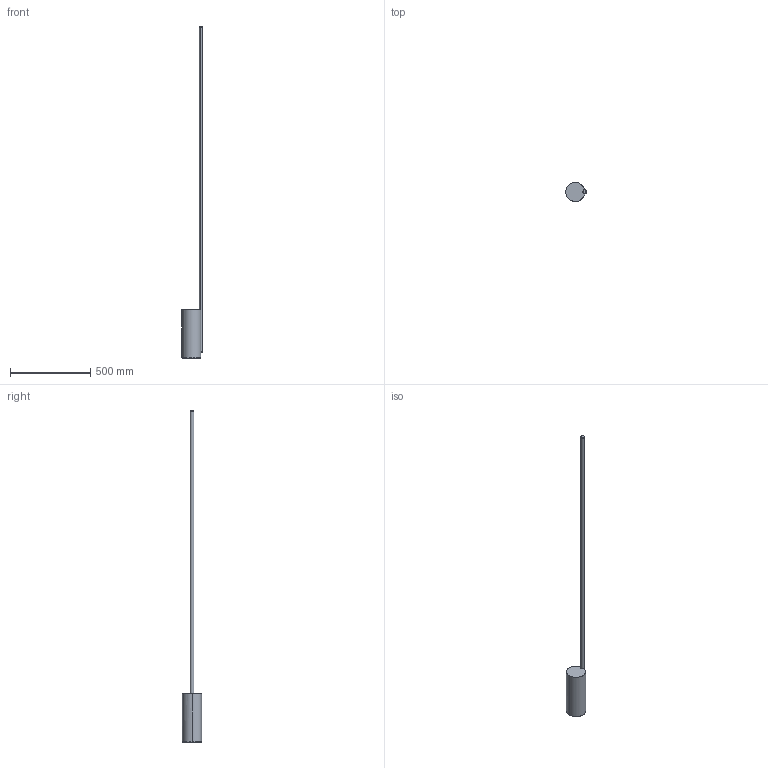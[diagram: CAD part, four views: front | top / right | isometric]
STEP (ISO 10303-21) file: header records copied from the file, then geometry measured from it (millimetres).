
FILE_DESCRIPTION(/* description */ (''),/* implementation_level */ '2;1');
FILE_NAME(/* name */ 'T108__~1',/* time_stamp */ '2024-07-02T10:50:50+02:00',/* author */ (''),/* organization */ (''),/* preprocessor_version */ 'ST-DEVELOPER v16.5',/* originating_system */ '',/* authorisation */ '');
FILE_SCHEMA (('AUTOMOTIVE_DESIGN'));
Length unit declared in the file: millimetre
Products named in the file (1): Document
Bounding box: 127.87 x 119.9 x 2068.5 mm (x, y, z)
Volume: 4017241.5 mm3; surface area: 421549.3 mm2
Topology: 4 solids, 6 shells, 125 faces, 317 edges, 197 vertices
Faces by surface type: bspline 88, plane 37
Entity records: 4645 total; most frequent: CARTESIAN_POINT 2775, ORIENTED_EDGE 616, EDGE_CURVE 312, VERTEX_POINT 195, B_SPLINE_CURVE_WITH_KNOTS 172, ADVANCED_FACE 125, FACE_OUTER_BOUND 125, EDGE_LOOP 125
